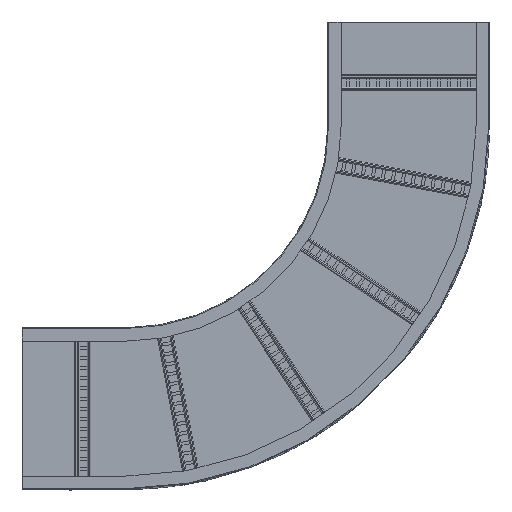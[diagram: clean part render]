
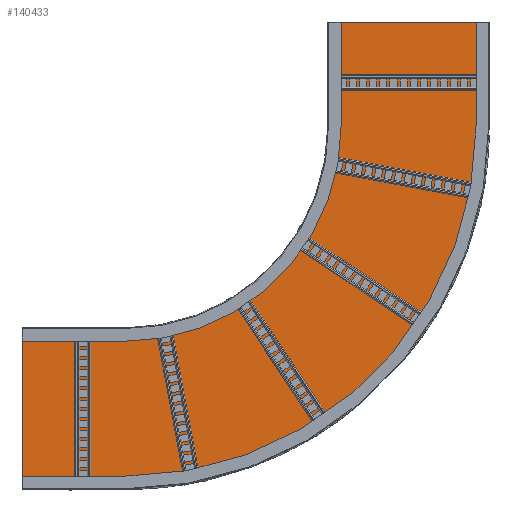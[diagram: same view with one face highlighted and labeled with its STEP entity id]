
A CAD part, front view. The second image highlights one B-rep face of the part: STEP entity #140433.
In plain terms, the highlighted planar face has unit normal (0, -1, 0).
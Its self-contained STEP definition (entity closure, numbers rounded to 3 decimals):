
#2447 = EDGE_LOOP ( 'NONE', ( #153112, #96683, #96972, #8107, #81797, #47027, #57731, #17156 ) ) ;
#8107 = ORIENTED_EDGE ( 'NONE', *, *, #156821, .F. ) ;
#11180 = CARTESIAN_POINT ( 'NONE',  ( -894., -1., 1153.7 ) ) ;
#11869 = PLANE ( 'NONE',  #101839 ) ;
#13074 = VECTOR ( 'NONE', #57472, 1000. ) ;
#16472 = CARTESIAN_POINT ( 'NONE',  ( 0., -1., 0. ) ) ;
#16962 = VERTEX_POINT ( 'NONE', #80208 ) ;
#17156 = ORIENTED_EDGE ( 'NONE', *, *, #162425, .F. ) ;
#17500 = AXIS2_PLACEMENT_3D ( 'NONE', #46702, #137957, #59792 ) ;
#24451 = VERTEX_POINT ( 'NONE', #167307 ) ;
#24912 = DIRECTION ( 'NONE',  ( 0., 0., 1. ) ) ;
#25686 = CARTESIAN_POINT ( 'NONE',  ( -394., -1., 259.7 ) ) ;
#29814 = LINE ( 'NONE', #73928, #64451 ) ;
#44376 = CARTESIAN_POINT ( 'NONE',  ( -1153.7, -1., 1153.7 ) ) ;
#44775 = VERTEX_POINT ( 'NONE', #96994 ) ;
#45627 = VECTOR ( 'NONE', #112918, 1000. ) ;
#46702 = CARTESIAN_POINT ( 'NONE',  ( -894., -1., 259.7 ) ) ;
#47027 = ORIENTED_EDGE ( 'NONE', *, *, #77905, .F. ) ;
#49554 = VERTEX_POINT ( 'NONE', #11180 ) ;
#51363 = CARTESIAN_POINT ( 'NONE',  ( -394., -1., 0. ) ) ;
#54579 = VERTEX_POINT ( 'NONE', #16472 ) ;
#56789 = EDGE_CURVE ( 'NONE', #44775, #54579, #149752, .T. ) ;
#57472 = DIRECTION ( 'NONE',  ( 0., 0., 1. ) ) ;
#57731 = ORIENTED_EDGE ( 'NONE', *, *, #87862, .F. ) ;
#59792 = DIRECTION ( 'NONE',  ( 0., 0., 1. ) ) ;
#62662 = CARTESIAN_POINT ( 'NONE',  ( -394., -1., 0. ) ) ;
#63002 = VECTOR ( 'NONE', #68283, 1000. ) ;
#64451 = VECTOR ( 'NONE', #125814, 1000. ) ;
#64472 = DIRECTION ( 'NONE',  ( -1., 0., 0. ) ) ;
#68084 = DIRECTION ( 'NONE',  ( 0., -1., 0. ) ) ;
#68283 = DIRECTION ( 'NONE',  ( -1., 0., 0. ) ) ;
#73928 = CARTESIAN_POINT ( 'NONE',  ( -1153.7, -1., 1153.7 ) ) ;
#76740 = EDGE_CURVE ( 'NONE', #49554, #44775, #120533, .T. ) ;
#77905 = EDGE_CURVE ( 'NONE', #16962, #163526, #116461, .T. ) ;
#80208 = CARTESIAN_POINT ( 'NONE',  ( -394., -1., 259.7 ) ) ;
#81797 = ORIENTED_EDGE ( 'NONE', *, *, #146841, .F. ) ;
#82320 = LINE ( 'NONE', #44376, #13074 ) ;
#84642 = VECTOR ( 'NONE', #103759, 1000. ) ;
#87862 = EDGE_CURVE ( 'NONE', #141389, #16962, #154082, .T. ) ;
#92710 = FACE_OUTER_BOUND ( 'NONE', #2447, .T. ) ;
#94469 = CARTESIAN_POINT ( 'NONE',  ( -1153.7, -1., 759.7 ) ) ;
#96683 = ORIENTED_EDGE ( 'NONE', *, *, #76740, .F. ) ;
#96972 = ORIENTED_EDGE ( 'NONE', *, *, #139453, .F. ) ;
#96994 = CARTESIAN_POINT ( 'NONE',  ( 0., -1., 259.7 ) ) ;
#100372 = CARTESIAN_POINT ( 'NONE',  ( 0., -1., 259.7 ) ) ;
#100571 = CARTESIAN_POINT ( 'NONE',  ( -1153.7, -1., 1153.7 ) ) ;
#101839 = AXIS2_PLACEMENT_3D ( 'NONE', #154355, #102978, #24912 ) ;
#102978 = DIRECTION ( 'NONE',  ( 0., 1., 0. ) ) ;
#103759 = DIRECTION ( 'NONE',  ( 0., 0., 1. ) ) ;
#105887 = LINE ( 'NONE', #94469, #63002 ) ;
#106836 = CARTESIAN_POINT ( 'NONE',  ( -894., -1., 759.7 ) ) ;
#112918 = DIRECTION ( 'NONE',  ( 0., 0., -1. ) ) ;
#115878 = AXIS2_PLACEMENT_3D ( 'NONE', #146231, #68084, #159336 ) ;
#116461 = CIRCLE ( 'NONE', #115878, 500. ) ;
#120533 = CIRCLE ( 'NONE', #17500, 894. ) ;
#125814 = DIRECTION ( 'NONE',  ( 1., 0., 0. ) ) ;
#134218 = VERTEX_POINT ( 'NONE', #100571 ) ;
#136106 = VECTOR ( 'NONE', #64472, 1000. ) ;
#137957 = DIRECTION ( 'NONE',  ( 0., 1., 0. ) ) ;
#139453 = EDGE_CURVE ( 'NONE', #134218, #49554, #29814, .T. ) ;
#140196 = LINE ( 'NONE', #51363, #136106 ) ;
#140433 = ADVANCED_FACE ( 'NONE', ( #92710 ), #11869, .F. ) ;
#141389 = VERTEX_POINT ( 'NONE', #62662 ) ;
#146231 = CARTESIAN_POINT ( 'NONE',  ( -894., -1., 259.7 ) ) ;
#146841 = EDGE_CURVE ( 'NONE', #163526, #24451, #105887, .T. ) ;
#149752 = LINE ( 'NONE', #100372, #45627 ) ;
#153112 = ORIENTED_EDGE ( 'NONE', *, *, #56789, .F. ) ;
#154082 = LINE ( 'NONE', #25686, #84642 ) ;
#154355 = CARTESIAN_POINT ( 'NONE',  ( -894., -1., 259.7 ) ) ;
#156821 = EDGE_CURVE ( 'NONE', #24451, #134218, #82320, .T. ) ;
#159336 = DIRECTION ( 'NONE',  ( 0., 0., 1. ) ) ;
#162425 = EDGE_CURVE ( 'NONE', #54579, #141389, #140196, .T. ) ;
#163526 = VERTEX_POINT ( 'NONE', #106836 ) ;
#167307 = CARTESIAN_POINT ( 'NONE',  ( -1153.7, -1., 759.7 ) ) ;
